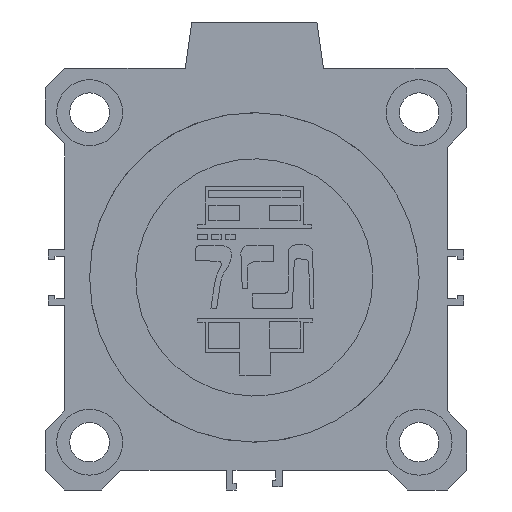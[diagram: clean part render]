
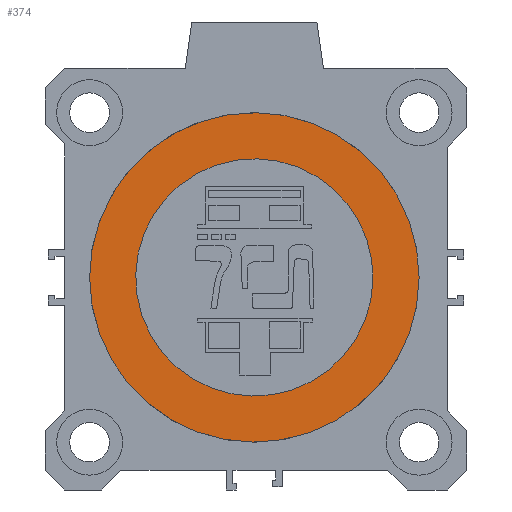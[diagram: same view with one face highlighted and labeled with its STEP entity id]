
A CAD part, left-side view. The second image highlights one B-rep face of the part: STEP entity #374.
In plain terms, the highlighted planar face has unit normal (-1, 0, 0).
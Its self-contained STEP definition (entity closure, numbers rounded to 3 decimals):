
#292=CARTESIAN_POINT('Vertex',(3.5,8.63,15.796)) ;
#295=CARTESIAN_POINT('Axis2P3D Location',(3.5,0.,0.)) ;
#299=CARTESIAN_POINT('Vertex',(3.5,-8.63,-15.796)) ;
#319=CARTESIAN_POINT('Axis2P3D Location',(3.5,0.,0.)) ;
#331=CARTESIAN_POINT('Axis2P3D Location',(3.5,0.,25.)) ;
#336=CARTESIAN_POINT('Axis2P3D Location',(3.5,0.,0.)) ;
#340=CARTESIAN_POINT('Vertex',(3.5,-11.986,-21.94)) ;
#342=CARTESIAN_POINT('Vertex',(3.5,-25.,0.)) ;
#345=CARTESIAN_POINT('Axis2P3D Location',(3.5,0.,0.)) ;
#349=CARTESIAN_POINT('Vertex',(3.5,11.986,21.94)) ;
#352=CARTESIAN_POINT('Axis2P3D Location',(3.5,0.,0.)) ;
#356=CARTESIAN_POINT('Vertex',(3.5,25.,0.)) ;
#359=CARTESIAN_POINT('Axis2P3D Location',(3.5,0.,0.)) ;
#296=DIRECTION('Axis2P3D Direction',(-1.,0.,0.)) ;
#320=DIRECTION('Axis2P3D Direction',(-1.,0.,0.)) ;
#332=DIRECTION('Axis2P3D Direction',(-1.,0.,0.)) ;
#333=DIRECTION('Axis2P3D XDirection',(0.,1.,0.)) ;
#337=DIRECTION('Axis2P3D Direction',(-1.,0.,0.)) ;
#346=DIRECTION('Axis2P3D Direction',(-1.,0.,0.)) ;
#353=DIRECTION('Axis2P3D Direction',(-1.,0.,0.)) ;
#360=DIRECTION('Axis2P3D Direction',(-1.,0.,0.)) ;
#297=AXIS2_PLACEMENT_3D('Circle Axis2P3D',#295,#296,$) ;
#321=AXIS2_PLACEMENT_3D('Circle Axis2P3D',#319,#320,$) ;
#334=AXIS2_PLACEMENT_3D('Plane Axis2P3D',#331,#332,#333) ;
#338=AXIS2_PLACEMENT_3D('Circle Axis2P3D',#336,#337,$) ;
#347=AXIS2_PLACEMENT_3D('Circle Axis2P3D',#345,#346,$) ;
#354=AXIS2_PLACEMENT_3D('Circle Axis2P3D',#352,#353,$) ;
#361=AXIS2_PLACEMENT_3D('Circle Axis2P3D',#359,#360,$) ;
#365=ORIENTED_EDGE('',*,*,#344,.T.) ;
#366=ORIENTED_EDGE('',*,*,#351,.T.) ;
#367=ORIENTED_EDGE('',*,*,#358,.T.) ;
#368=ORIENTED_EDGE('',*,*,#363,.T.) ;
#371=ORIENTED_EDGE('',*,*,#301,.F.) ;
#372=ORIENTED_EDGE('',*,*,#323,.F.) ;
#373=FACE_BOUND('',#370,.T.) ;
#374=ADVANCED_FACE('PartBody',(#369,#373),#335,.T.) ;
#298=CIRCLE('generated circle',#297,18.) ;
#322=CIRCLE('generated circle',#321,18.) ;
#339=CIRCLE('generated circle',#338,25.) ;
#348=CIRCLE('generated circle',#347,25.) ;
#355=CIRCLE('generated circle',#354,25.) ;
#362=CIRCLE('generated circle',#361,25.) ;
#301=EDGE_CURVE('',#293,#300,#298,.T.) ;
#323=EDGE_CURVE('',#300,#293,#322,.T.) ;
#344=EDGE_CURVE('',#341,#343,#339,.T.) ;
#351=EDGE_CURVE('',#343,#350,#348,.T.) ;
#358=EDGE_CURVE('',#350,#357,#355,.T.) ;
#363=EDGE_CURVE('',#357,#341,#362,.T.) ;
#364=EDGE_LOOP('',(#365,#366,#367,#368)) ;
#370=EDGE_LOOP('',(#371,#372)) ;
#369=FACE_OUTER_BOUND('',#364,.T.) ;
#335=PLANE('',#334) ;
#293=VERTEX_POINT('',#292) ;
#300=VERTEX_POINT('',#299) ;
#341=VERTEX_POINT('',#340) ;
#343=VERTEX_POINT('',#342) ;
#350=VERTEX_POINT('',#349) ;
#357=VERTEX_POINT('',#356) ;
